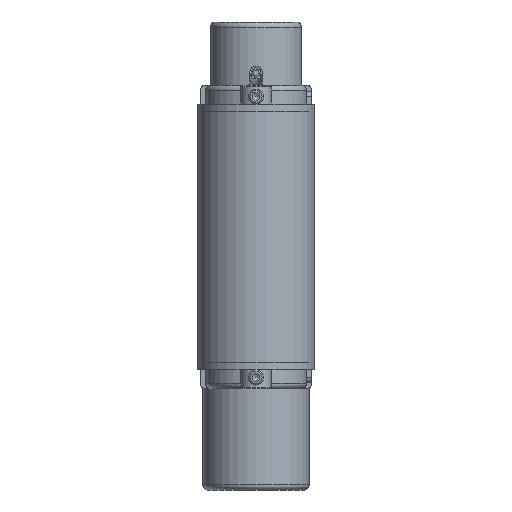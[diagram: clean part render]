
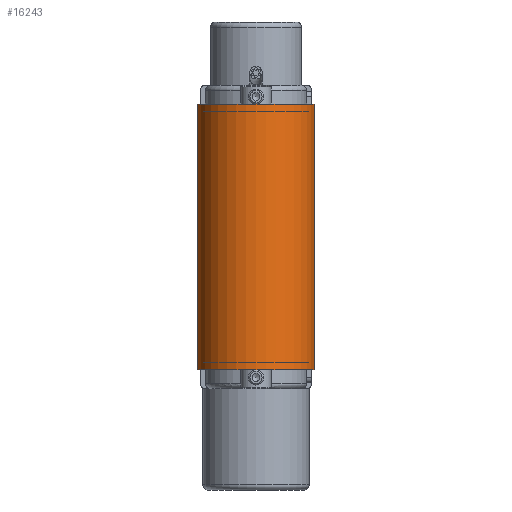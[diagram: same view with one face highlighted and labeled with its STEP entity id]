
A CAD part, front view. The second image highlights one B-rep face of the part: STEP entity #16243.
In plain terms, the highlighted cylindrical face has radius 23.3 mm (diameter 46.6 mm), a partial arc.
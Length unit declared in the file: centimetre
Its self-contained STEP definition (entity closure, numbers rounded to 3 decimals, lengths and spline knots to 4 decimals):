
#1178=FACE_OUTER_BOUND('',#2077,.T.);
#2077=EDGE_LOOP('',(#10978,#10979,#10980,#10981));
#3098=LINE('',#24176,#4356);
#3099=LINE('',#24180,#4357);
#4356=VECTOR('',#19451,1.);
#4357=VECTOR('',#19456,1.);
#5561=CIRCLE('',#17307,2.33);
#5564=CIRCLE('',#17313,2.33);
#6514=VERTEX_POINT('',#24159);
#6515=VERTEX_POINT('',#24160);
#6520=VERTEX_POINT('',#24174);
#6521=VERTEX_POINT('',#24178);
#8241=EDGE_CURVE('',#6514,#6515,#5561,.T.);
#8249=EDGE_CURVE('',#6520,#6515,#3098,.T.);
#8250=EDGE_CURVE('',#6520,#6521,#5564,.T.);
#8251=EDGE_CURVE('',#6514,#6521,#3099,.T.);
#10978=ORIENTED_EDGE('',*,*,#8250,.T.);
#10979=ORIENTED_EDGE('',*,*,#8251,.F.);
#10980=ORIENTED_EDGE('',*,*,#8241,.T.);
#10981=ORIENTED_EDGE('',*,*,#8249,.F.);
#14988=CYLINDRICAL_SURFACE('',#17312,2.33);
#16243=ADVANCED_FACE('',(#1178),#14988,.T.);
#17307=AXIS2_PLACEMENT_3D('',#24161,#19436,#19437);
#17312=AXIS2_PLACEMENT_3D('',#24177,#19452,#19453);
#17313=AXIS2_PLACEMENT_3D('',#24179,#19454,#19455);
#19436=DIRECTION('center_axis',(0.,0.,
-1.));
#19437=DIRECTION('ref_axis',(-1.,0.,0.));
#19451=DIRECTION('',(0.,0.,1.));
#19452=DIRECTION('center_axis',(0.,0.,
-1.));
#19453=DIRECTION('ref_axis',(-1.,0.,0.));
#19454=DIRECTION('center_axis',(0.,0.,
1.));
#19455=DIRECTION('ref_axis',(-1.,0.,0.));
#19456=DIRECTION('',(0.,0.,-1.));
#24159=CARTESIAN_POINT('',(2.33,-57.,5.25));
#24160=CARTESIAN_POINT('',(-2.33,-57.,5.25));
#24161=CARTESIAN_POINT('Origin',(0.,-57.,5.25));
#24174=CARTESIAN_POINT('',(-2.33,-57.,-5.25));
#24176=CARTESIAN_POINT('',(-2.33,-57.,0.));
#24177=CARTESIAN_POINT('Origin',(0.,-57.,0.));
#24178=CARTESIAN_POINT('',(2.33,-57.,-5.25));
#24179=CARTESIAN_POINT('Origin',(0.,-57.,-5.25));
#24180=CARTESIAN_POINT('',(2.33,-57.,0.));
